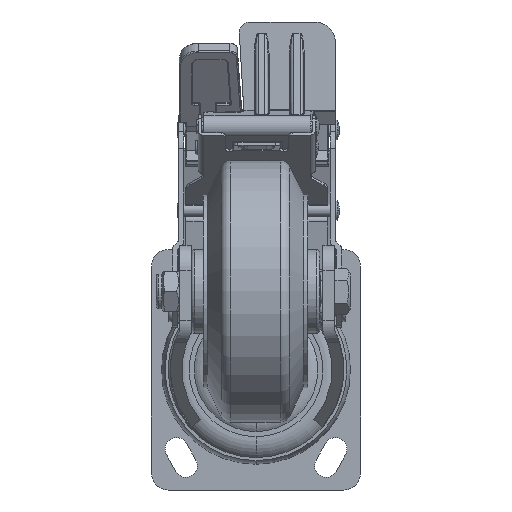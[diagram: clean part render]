
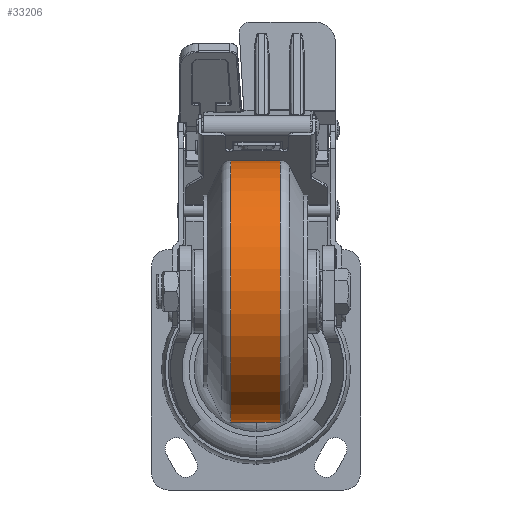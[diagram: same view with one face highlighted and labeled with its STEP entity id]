
A CAD part, front view. The second image highlights one B-rep face of the part: STEP entity #33206.
In plain terms, the highlighted cylindrical face has radius 62.5 mm (diameter 125 mm), a partial arc.
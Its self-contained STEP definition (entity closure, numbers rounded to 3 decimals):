
#18576 = CARTESIAN_POINT ( 'NONE',  ( 0., 52.868, -62.5 ) ) ;
#18800 = DIRECTION ( 'NONE',  ( 0., -1., 0. ) ) ;
#18802 = VECTOR ( 'NONE', #18800, 1000. ) ;
#18803 = CARTESIAN_POINT ( 'NONE',  ( 0., 0., -62.5 ) ) ;
#18804 = LINE ( 'NONE', #18803, #18802 ) ;
#19377 = CARTESIAN_POINT ( 'NONE',  ( 0., 52.868, 62.5 ) ) ;
#19502 = CARTESIAN_POINT ( 'NONE',  ( 0., 29.132, 62.5 ) ) ;
#19544 = DIRECTION ( 'NONE',  ( 0., -1., 0. ) ) ;
#19545 = VECTOR ( 'NONE', #19544, 1000. ) ;
#19547 = CARTESIAN_POINT ( 'NONE',  ( 0., 0., 62.5 ) ) ;
#19549 = LINE ( 'NONE', #19547, #19545 ) ;
#19614 = CARTESIAN_POINT ( 'NONE',  ( 0., 29.132, -62.5 ) ) ;
#19642 = DIRECTION ( 'NONE',  ( 0., 0., -1. ) ) ;
#19644 = DIRECTION ( 'NONE',  ( 0., -1., 0. ) ) ;
#19645 = CARTESIAN_POINT ( 'NONE',  ( 0., 0., 0. ) ) ;
#19646 = AXIS2_PLACEMENT_3D ( 'NONE', #19645, #19644, #19642 ) ;
#19652 = CYLINDRICAL_SURFACE ( 'NONE', #19646, 62.5 ) ;
#19654 = FACE_OUTER_BOUND ( 'NONE', #33210, .T. ) ;
#19656 = DIRECTION ( 'NONE',  ( 0., 0., -1. ) ) ;
#19658 = DIRECTION ( 'NONE',  ( 0., -1., 0. ) ) ;
#19660 = CARTESIAN_POINT ( 'NONE',  ( 0., 29.132, 0. ) ) ;
#19662 = AXIS2_PLACEMENT_3D ( 'NONE', #19660, #19658, #19656 ) ;
#19671 = CIRCLE ( 'NONE', #19662, 62.5 ) ;
#19753 = DIRECTION ( 'NONE',  ( 0., 0., -1. ) ) ;
#19755 = DIRECTION ( 'NONE',  ( 0., -1., 0. ) ) ;
#19756 = CARTESIAN_POINT ( 'NONE',  ( 0., 52.868, 0. ) ) ;
#19757 = AXIS2_PLACEMENT_3D ( 'NONE', #19756, #19755, #19753 ) ;
#19759 = CIRCLE ( 'NONE', #19757, 62.5 ) ;
#32893 = VERTEX_POINT ( 'NONE', #18576 ) ;
#32947 = EDGE_CURVE ( 'NONE', #32893, #33168, #18804, .T. ) ;
#33109 = VERTEX_POINT ( 'NONE', #19377 ) ;
#33143 = EDGE_CURVE ( 'NONE', #33109, #33159, #19549, .T. ) ;
#33159 = VERTEX_POINT ( 'NONE', #19502 ) ;
#33168 = VERTEX_POINT ( 'NONE', #19614 ) ;
#33199 = EDGE_CURVE ( 'NONE', #33159, #33168, #19671, .T. ) ;
#33206 = ADVANCED_FACE ( 'NONE', ( #19654 ), #19652, .T. ) ;
#33210 = EDGE_LOOP ( 'NONE', ( #33214, #33217, #33375, #33378 ) ) ;
#33214 = ORIENTED_EDGE ( 'NONE', *, *, #33143, .F. ) ;
#33217 = ORIENTED_EDGE ( 'NONE', *, *, #33219, .T. ) ;
#33219 = EDGE_CURVE ( 'NONE', #33109, #32893, #19759, .T. ) ;
#33375 = ORIENTED_EDGE ( 'NONE', *, *, #32947, .T. ) ;
#33378 = ORIENTED_EDGE ( 'NONE', *, *, #33199, .F. ) ;
